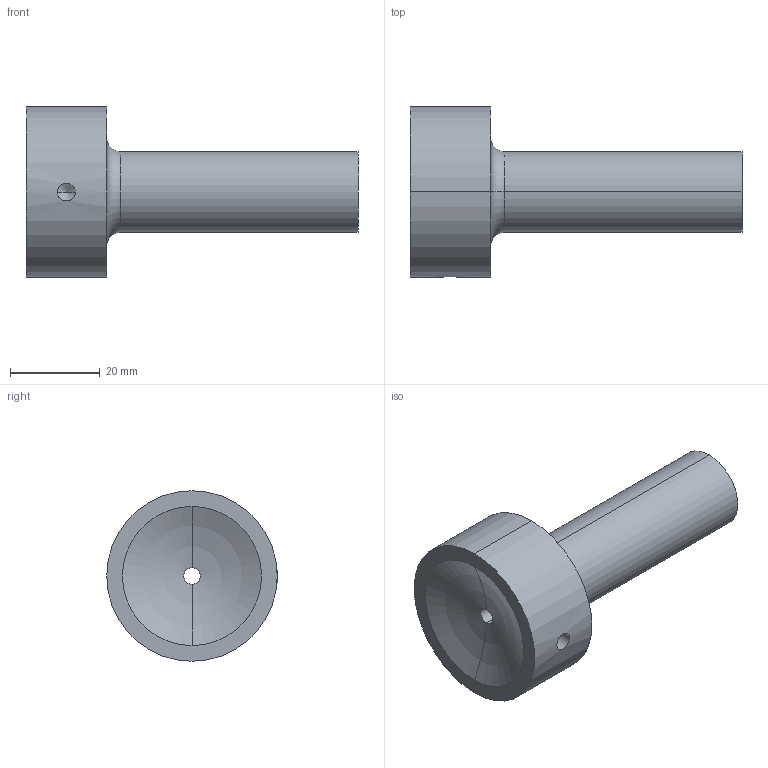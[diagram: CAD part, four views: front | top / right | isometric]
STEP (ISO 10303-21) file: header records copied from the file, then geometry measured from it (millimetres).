
FILE_DESCRIPTION (( 'STEP AP214' ), '1' );
FILE_NAME ('BR51 18x56x3,5x40.STEP', '2019-06-05T15:20:42', ( 'August' ), ( '' ), 'SwSTEP 2.0', 'SolidWorks 2018', '' );
FILE_SCHEMA (( 'AUTOMOTIVE_DESIGN' ));
Length unit declared in the file: millimetre
Products named in the file (1): BR51 18x56x3,5x40
Bounding box: 74 x 38 x 38 mm (x, y, z)
Volume: 31695.7 mm3; surface area: 8748.5 mm2
Topology: 1 solids, 1 shells, 17 faces, 36 edges, 21 vertices
Faces by surface type: cylinder 6, cone 4, torus 4, plane 3
Entity records: 538 total; most frequent: CARTESIAN_POINT 127, DIRECTION 90, ORIENTED_EDGE 68, AXIS2_PLACEMENT_3D 40, EDGE_CURVE 34, CIRCLE 22, VERTEX_POINT 21, EDGE_LOOP 21
